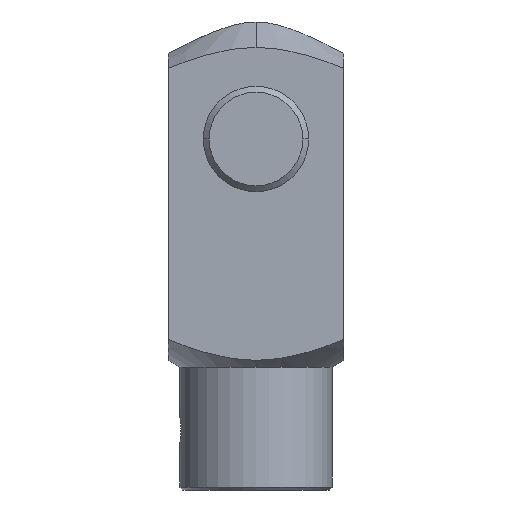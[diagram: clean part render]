
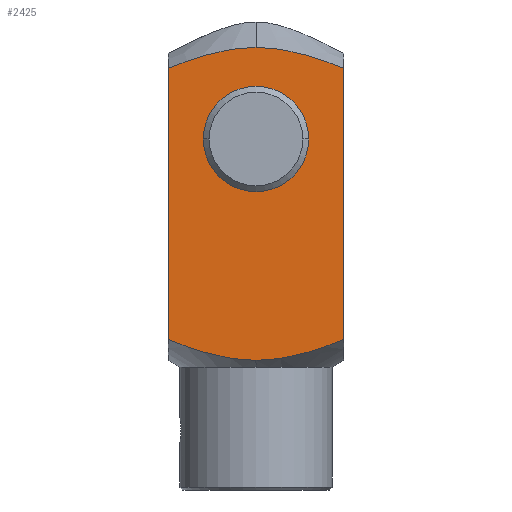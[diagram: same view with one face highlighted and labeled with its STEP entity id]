
A CAD part, left-side view. The second image highlights one B-rep face of the part: STEP entity #2425.
In plain terms, the highlighted planar face has unit normal (-1, 0, 0).
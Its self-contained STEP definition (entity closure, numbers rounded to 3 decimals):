
#41 = ORIENTED_EDGE ( 'NONE', *, *, #194, .T. ) ;
#42 = CARTESIAN_POINT ( 'NONE',  ( -30., -30., 245.5 ) ) ;
#64 = VERTEX_POINT ( 'NONE', #2423 ) ;
#132 = ORIENTED_EDGE ( 'NONE', *, *, #2777, .T. ) ;
#183 = CARTESIAN_POINT ( 'NONE',  ( -30., -30., 347.665 ) ) ;
#194 = EDGE_CURVE ( 'NONE', #64, #1397, #2234, .T. ) ;
#203 = CARTESIAN_POINT ( 'NONE',  ( -30., 30., 347.665 ) ) ;
#205 = LINE ( 'NONE', #2937, #2942 ) ;
#215 = CARTESIAN_POINT ( 'NONE',  ( -30., 0., 354.84 ) ) ;
#295 = DIRECTION ( 'NONE',  ( 1., 0., 0. ) ) ;
#299 = ORIENTED_EDGE ( 'NONE', *, *, #1231, .T. ) ;
#410 = CARTESIAN_POINT ( 'NONE',  ( -30., 0., 354.84 ) ) ;
#417 = PLANE ( 'NONE',  #1834 ) ;
#548 = ORIENTED_EDGE ( 'NONE', *, *, #2646, .T. ) ;
#663 = FACE_OUTER_BOUND ( 'NONE', #2202, .T. ) ;
#702 = EDGE_CURVE ( 'NONE', #1397, #2223, #2579, .T. ) ;
#905 = AXIS2_PLACEMENT_3D ( 'NONE', #3157, #956, #1691 ) ;
#956 = DIRECTION ( 'NONE',  ( 1., 0., 0. ) ) ;
#975 = CARTESIAN_POINT ( 'NONE',  ( -30., 12.426, 247.809 ) ) ;
#996 = CARTESIAN_POINT ( 'NONE',  ( -30., -15., 323.5 ) ) ;
#1122 = EDGE_LOOP ( 'NONE', ( #132, #548 ) ) ;
#1127 = CARTESIAN_POINT ( 'NONE',  ( -30., 30., 254.984 ) ) ;
#1148 = CARTESIAN_POINT ( 'NONE',  ( -30., 0., 354.84 ) ) ;
#1231 = EDGE_CURVE ( 'NONE', #2000, #1761, #1740, .T. ) ;
#1253 = EDGE_CURVE ( 'NONE', #2000, #2966, #205, .T. ) ;
#1255 = ORIENTED_EDGE ( 'NONE', *, *, #702, .T. ) ;
#1283 = CARTESIAN_POINT ( 'NONE',  ( -30., 0., 247.809 ) ) ;
#1397 = VERTEX_POINT ( 'NONE', #2481 ) ;
#1406 = CARTESIAN_POINT ( 'NONE',  ( -30., -30., 245.5 ) ) ;
#1483 = CARTESIAN_POINT ( 'NONE',  ( -30., -12.426, 247.809 ) ) ;
#1616 = VECTOR ( 'NONE', #2045, 1000. ) ;
#1636 = CARTESIAN_POINT ( 'NONE',  ( -30., 12.426, 354.84 ) ) ;
#1691 = DIRECTION ( 'NONE',  ( 0., 1., 0. ) ) ;
#1740 =( BOUNDED_CURVE ( )  B_SPLINE_CURVE ( 2, ( #1127, #975, #2400 ),
 .UNSPECIFIED., .F., .T. ) 
 B_SPLINE_CURVE_WITH_KNOTS ( ( 3, 3 ),
 ( 0.351, 3.607 ),
 .UNSPECIFIED. ) 
 CURVE ( )  GEOMETRIC_REPRESENTATION_ITEM ( )  RATIONAL_B_SPLINE_CURVE ( ( 1.049, 1.267, 1.267 ) ) 
 REPRESENTATION_ITEM ( '' )  );
#1761 = VERTEX_POINT ( 'NONE', #1283 ) ;
#1784 = DIRECTION ( 'NONE',  ( 0., 1., 0. ) ) ;
#1834 = AXIS2_PLACEMENT_3D ( 'NONE', #1406, #3097, #2845 ) ;
#1906 = CARTESIAN_POINT ( 'NONE',  ( -30., 30., 347.665 ) ) ;
#1935 = CARTESIAN_POINT ( 'NONE',  ( -30., -30., 254.984 ) ) ;
#1977 = CARTESIAN_POINT ( 'NONE',  ( -30., 15., 323.5 ) ) ;
#2000 = VERTEX_POINT ( 'NONE', #2404 ) ;
#2016 = VERTEX_POINT ( 'NONE', #996 ) ;
#2023 = CIRCLE ( 'NONE', #2909, 15. ) ;
#2024 = EDGE_CURVE ( 'NONE', #1761, #64, #2618, .T. ) ;
#2045 = DIRECTION ( 'NONE',  ( 0., 0., 1. ) ) ;
#2202 = EDGE_LOOP ( 'NONE', ( #299, #3071, #41, #1255, #2964, #2292 ) ) ;
#2223 = VERTEX_POINT ( 'NONE', #215 ) ;
#2234 = LINE ( 'NONE', #42, #1616 ) ;
#2292 = ORIENTED_EDGE ( 'NONE', *, *, #1253, .F. ) ;
#2400 = CARTESIAN_POINT ( 'NONE',  ( -30., 0., 247.809 ) ) ;
#2404 = CARTESIAN_POINT ( 'NONE',  ( -30., 30., 254.984 ) ) ;
#2423 = CARTESIAN_POINT ( 'NONE',  ( -30., -30., 254.984 ) ) ;
#2425 = ADVANCED_FACE ( 'NONE', ( #2636, #663 ), #417, .T. ) ;
#2464 = EDGE_CURVE ( 'NONE', #2223, #2966, #2935, .T. ) ;
#2481 = CARTESIAN_POINT ( 'NONE',  ( -30., -30., 347.665 ) ) ;
#2505 = CARTESIAN_POINT ( 'NONE',  ( -30., 0., 323.5 ) ) ;
#2508 = VERTEX_POINT ( 'NONE', #1977 ) ;
#2579 =( BOUNDED_CURVE ( )  B_SPLINE_CURVE ( 2, ( #183, #2627, #410 ),
 .UNSPECIFIED., .F., .F. ) 
 B_SPLINE_CURVE_WITH_KNOTS ( ( 3, 3 ),
 ( 0.714, 4.163 ),
 .UNSPECIFIED. ) 
 CURVE ( )  GEOMETRIC_REPRESENTATION_ITEM ( )  RATIONAL_B_SPLINE_CURVE ( ( 1.105, 1.333, 1.333 ) ) 
 REPRESENTATION_ITEM ( '' )  );
#2618 =( BOUNDED_CURVE ( )  B_SPLINE_CURVE ( 2, ( #2651, #1483, #1935 ),
 .UNSPECIFIED., .F., .T. ) 
 B_SPLINE_CURVE_WITH_KNOTS ( ( 3, 3 ),
 ( 3.607, 6.864 ),
 .UNSPECIFIED. ) 
 CURVE ( )  GEOMETRIC_REPRESENTATION_ITEM ( )  RATIONAL_B_SPLINE_CURVE ( ( 1.267, 1.267, 1.049 ) ) 
 REPRESENTATION_ITEM ( '' )  );
#2627 = CARTESIAN_POINT ( 'NONE',  ( -30., -12.426, 354.84 ) ) ;
#2636 = FACE_BOUND ( 'NONE', #1122, .T. ) ;
#2646 = EDGE_CURVE ( 'NONE', #2016, #2508, #3164, .T. ) ;
#2651 = CARTESIAN_POINT ( 'NONE',  ( -30., 0., 247.809 ) ) ;
#2777 = EDGE_CURVE ( 'NONE', #2508, #2016, #2023, .T. ) ;
#2845 = DIRECTION ( 'NONE',  ( 0., 0., -1. ) ) ;
#2909 = AXIS2_PLACEMENT_3D ( 'NONE', #2505, #295, #1784 ) ;
#2935 =( BOUNDED_CURVE ( )  B_SPLINE_CURVE ( 2, ( #1148, #1636, #1906 ),
 .UNSPECIFIED., .F., .T. ) 
 B_SPLINE_CURVE_WITH_KNOTS ( ( 3, 3 ),
 ( 4.163, 7.612 ),
 .UNSPECIFIED. ) 
 CURVE ( )  GEOMETRIC_REPRESENTATION_ITEM ( )  RATIONAL_B_SPLINE_CURVE ( ( 1.333, 1.333, 1.105 ) ) 
 REPRESENTATION_ITEM ( '' )  );
#2937 = CARTESIAN_POINT ( 'NONE',  ( -30., 30., 245.5 ) ) ;
#2942 = VECTOR ( 'NONE', #3076, 1000. ) ;
#2964 = ORIENTED_EDGE ( 'NONE', *, *, #2464, .T. ) ;
#2966 = VERTEX_POINT ( 'NONE', #203 ) ;
#3071 = ORIENTED_EDGE ( 'NONE', *, *, #2024, .T. ) ;
#3076 = DIRECTION ( 'NONE',  ( 0., 0., 1. ) ) ;
#3097 = DIRECTION ( 'NONE',  ( -1., 0., 0. ) ) ;
#3157 = CARTESIAN_POINT ( 'NONE',  ( -30., 0., 323.5 ) ) ;
#3164 = CIRCLE ( 'NONE', #905, 15. ) ;
